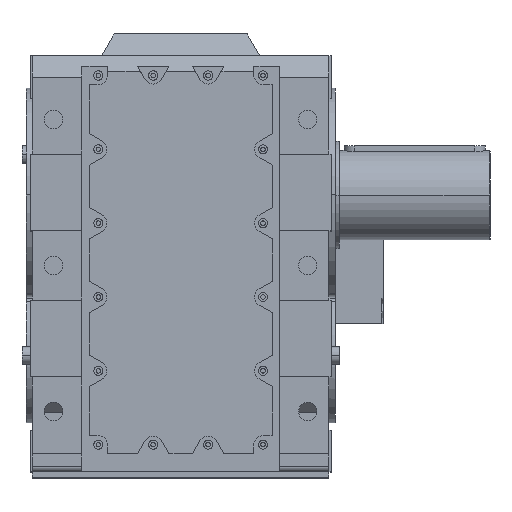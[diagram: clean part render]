
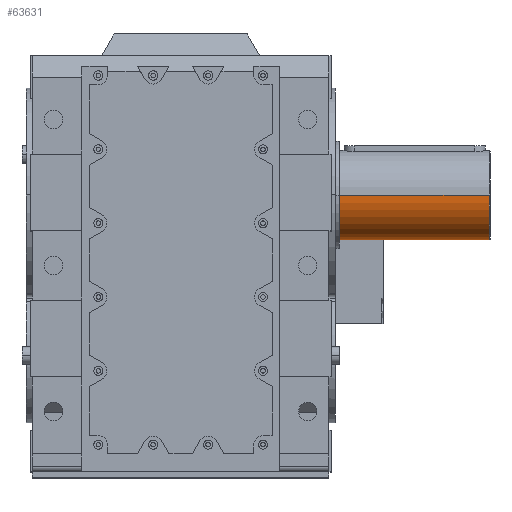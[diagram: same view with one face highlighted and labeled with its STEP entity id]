
A CAD part, top view. The second image highlights one B-rep face of the part: STEP entity #63631.
In plain terms, the highlighted cylindrical face has radius 95 mm (diameter 190 mm), a partial arc.
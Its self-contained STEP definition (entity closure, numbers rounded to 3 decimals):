
#62641 = PLANE('',#62642);
#62642 = AXIS2_PLACEMENT_3D('',#62643,#62644,#62645);
#62643 = CARTESIAN_POINT('',(337.,95.,0.));
#62644 = DIRECTION('',(-1.,0.,0.));
#62645 = DIRECTION('',(0.,0.,1.));
#62727 = VERTEX_POINT('',#62728);
#62728 = CARTESIAN_POINT('',(337.,0.,95.));
#62729 = VERTEX_POINT('',#62730);
#62730 = CARTESIAN_POINT('',(337.,0.,-95.));
#62745 = CYLINDRICAL_SURFACE('',#62746,95.);
#62746 = AXIS2_PLACEMENT_3D('',#62747,#62748,#62749);
#62747 = CARTESIAN_POINT('',(0.,0.,0.));
#62748 = DIRECTION('',(-1.,0.,0.));
#62749 = DIRECTION('',(0.,0.,1.));
#62756 = EDGE_CURVE('',#62729,#62727,#62757,.T.);
#62757 = SURFACE_CURVE('',#62758,(#62763,#62770),.PCURVE_S1.);
#62758 = CIRCLE('',#62759,95.);
#62759 = AXIS2_PLACEMENT_3D('',#62760,#62761,#62762);
#62760 = CARTESIAN_POINT('',(337.,0.,0.));
#62761 = DIRECTION('',(-1.,0.,0.));
#62762 = DIRECTION('',(0.,0.,1.));
#62763 = PCURVE('',#62641,#62764);
#62764 = DEFINITIONAL_REPRESENTATION('',(#62765),#62769);
#62765 = CIRCLE('',#62766,95.);
#62766 = AXIS2_PLACEMENT_2D('',#62767,#62768);
#62767 = CARTESIAN_POINT('',(0.,-95.));
#62768 = DIRECTION('',(1.,0.));
#62769 = ( GEOMETRIC_REPRESENTATION_CONTEXT(2) 
PARAMETRIC_REPRESENTATION_CONTEXT() REPRESENTATION_CONTEXT('2D SPACE',''
  ) );
#62770 = PCURVE('',#62771,#62776);
#62771 = CYLINDRICAL_SURFACE('',#62772,95.);
#62772 = AXIS2_PLACEMENT_3D('',#62773,#62774,#62775);
#62773 = CARTESIAN_POINT('',(0.,0.,0.));
#62774 = DIRECTION('',(-1.,0.,0.));
#62775 = DIRECTION('',(0.,0.,1.));
#62776 = DEFINITIONAL_REPRESENTATION('',(#62777),#62780);
#62777 = B_SPLINE_CURVE_WITH_KNOTS('',1,(#62778,#62779),.UNSPECIFIED.,
  .F.,.F.,(2,2),(3.142,6.283),.PIECEWISE_BEZIER_KNOTS.);
#62778 = CARTESIAN_POINT('',(3.142,-337.));
#62779 = CARTESIAN_POINT('',(6.283,-337.));
#62780 = ( GEOMETRIC_REPRESENTATION_CONTEXT(2) 
PARAMETRIC_REPRESENTATION_CONTEXT() REPRESENTATION_CONTEXT('2D SPACE',''
  ) );
#63542 = VERTEX_POINT('',#63543);
#63543 = CARTESIAN_POINT('',(655.5,0.,95.));
#63544 = VERTEX_POINT('',#63545);
#63545 = CARTESIAN_POINT('',(655.5,0.,-95.));
#63593 = EDGE_CURVE('',#63544,#62729,#63594,.T.);
#63594 = SURFACE_CURVE('',#63595,(#63599,#63605),.PCURVE_S1.);
#63595 = LINE('',#63596,#63597);
#63596 = CARTESIAN_POINT('',(0.,0.,-95.));
#63597 = VECTOR('',#63598,1.);
#63598 = DIRECTION('',(-1.,0.,0.));
#63599 = PCURVE('',#62745,#63600);
#63600 = DEFINITIONAL_REPRESENTATION('',(#63601),#63604);
#63601 = B_SPLINE_CURVE_WITH_KNOTS('',1,(#63602,#63603),.UNSPECIFIED.,
  .F.,.F.,(2,2),(-655.5,-337.),.PIECEWISE_BEZIER_KNOTS.);
#63602 = CARTESIAN_POINT('',(3.142,-655.5));
#63603 = CARTESIAN_POINT('',(3.142,-337.));
#63604 = ( GEOMETRIC_REPRESENTATION_CONTEXT(2) 
PARAMETRIC_REPRESENTATION_CONTEXT() REPRESENTATION_CONTEXT('2D SPACE',''
  ) );
#63605 = PCURVE('',#62771,#63606);
#63606 = DEFINITIONAL_REPRESENTATION('',(#63607),#63610);
#63607 = B_SPLINE_CURVE_WITH_KNOTS('',1,(#63608,#63609),.UNSPECIFIED.,
  .F.,.F.,(2,2),(-655.5,-337.),.PIECEWISE_BEZIER_KNOTS.);
#63608 = CARTESIAN_POINT('',(3.142,-655.5));
#63609 = CARTESIAN_POINT('',(3.142,-337.));
#63610 = ( GEOMETRIC_REPRESENTATION_CONTEXT(2) 
PARAMETRIC_REPRESENTATION_CONTEXT() REPRESENTATION_CONTEXT('2D SPACE',''
  ) );
#63613 = EDGE_CURVE('',#63542,#62727,#63614,.T.);
#63614 = SURFACE_CURVE('',#63615,(#63619,#63625),.PCURVE_S1.);
#63615 = LINE('',#63616,#63617);
#63616 = CARTESIAN_POINT('',(0.,0.,95.));
#63617 = VECTOR('',#63618,1.);
#63618 = DIRECTION('',(-1.,0.,0.));
#63619 = PCURVE('',#62745,#63620);
#63620 = DEFINITIONAL_REPRESENTATION('',(#63621),#63624);
#63621 = B_SPLINE_CURVE_WITH_KNOTS('',1,(#63622,#63623),.UNSPECIFIED.,
  .F.,.F.,(2,2),(-655.5,-337.),.PIECEWISE_BEZIER_KNOTS.);
#63622 = CARTESIAN_POINT('',(0.,-655.5));
#63623 = CARTESIAN_POINT('',(0.,-337.));
#63624 = ( GEOMETRIC_REPRESENTATION_CONTEXT(2) 
PARAMETRIC_REPRESENTATION_CONTEXT() REPRESENTATION_CONTEXT('2D SPACE',''
  ) );
#63625 = PCURVE('',#62771,#63626);
#63626 = DEFINITIONAL_REPRESENTATION('',(#63627),#63630);
#63627 = B_SPLINE_CURVE_WITH_KNOTS('',1,(#63628,#63629),.UNSPECIFIED.,
  .F.,.F.,(2,2),(-655.5,-337.),.PIECEWISE_BEZIER_KNOTS.);
#63628 = CARTESIAN_POINT('',(6.283,-655.5));
#63629 = CARTESIAN_POINT('',(6.283,-337.));
#63630 = ( GEOMETRIC_REPRESENTATION_CONTEXT(2) 
PARAMETRIC_REPRESENTATION_CONTEXT() REPRESENTATION_CONTEXT('2D SPACE',''
  ) );
#63631 = ADVANCED_FACE('',(#63632),#62771,.T.);
#63632 = FACE_BOUND('',#63633,.T.);
#63633 = EDGE_LOOP('',(#63634,#63635,#63683,#63684));
#63634 = ORIENTED_EDGE('',*,*,#63593,.F.);
#63635 = ORIENTED_EDGE('',*,*,#63636,.T.);
#63636 = EDGE_CURVE('',#63544,#63542,#63637,.T.);
#63637 = SURFACE_CURVE('',#63638,(#63643,#63649),.PCURVE_S1.);
#63638 = CIRCLE('',#63639,95.);
#63639 = AXIS2_PLACEMENT_3D('',#63640,#63641,#63642);
#63640 = CARTESIAN_POINT('',(655.5,0.,0.));
#63641 = DIRECTION('',(-1.,0.,0.));
#63642 = DIRECTION('',(0.,0.,1.));
#63643 = PCURVE('',#62771,#63644);
#63644 = DEFINITIONAL_REPRESENTATION('',(#63645),#63648);
#63645 = B_SPLINE_CURVE_WITH_KNOTS('',1,(#63646,#63647),.UNSPECIFIED.,
  .F.,.F.,(2,2),(3.142,6.283),.PIECEWISE_BEZIER_KNOTS.);
#63646 = CARTESIAN_POINT('',(3.142,-655.5));
#63647 = CARTESIAN_POINT('',(6.283,-655.5));
#63648 = ( GEOMETRIC_REPRESENTATION_CONTEXT(2) 
PARAMETRIC_REPRESENTATION_CONTEXT() REPRESENTATION_CONTEXT('2D SPACE',''
  ) );
#63649 = PCURVE('',#63650,#63655);
#63650 = CONICAL_SURFACE('',#63651,93.5,0.785);
#63651 = AXIS2_PLACEMENT_3D('',#63652,#63653,#63654);
#63652 = CARTESIAN_POINT('',(657.,0.,0.));
#63653 = DIRECTION('',(-1.,0.,0.));
#63654 = DIRECTION('',(0.,0.,1.));
#63655 = DEFINITIONAL_REPRESENTATION('',(#63656),#63682);
#63656 = B_SPLINE_CURVE_WITH_KNOTS('',3,(#63657,#63658,#63659,#63660,
    #63661,#63662,#63663,#63664,#63665,#63666,#63667,#63668,#63669,
    #63670,#63671,#63672,#63673,#63674,#63675,#63676,#63677,#63678,
    #63679,#63680,#63681),.UNSPECIFIED.,.F.,.F.,(4,1,1,1,1,1,1,1,1,1,1,1
    ,1,1,1,1,1,1,1,1,1,1,4),(3.142,3.284,3.427
    ,3.57,3.713,3.856,3.998,
    4.141,4.284,4.427,4.57,
    4.712,4.855,4.998,5.141,
    5.284,5.426,5.569,5.712,
    5.855,5.998,6.14,6.283),
  .QUASI_UNIFORM_KNOTS.);
#63657 = CARTESIAN_POINT('',(3.142,1.5));
#63658 = CARTESIAN_POINT('',(3.189,1.5));
#63659 = CARTESIAN_POINT('',(3.284,1.5));
#63660 = CARTESIAN_POINT('',(3.427,1.5));
#63661 = CARTESIAN_POINT('',(3.57,1.5));
#63662 = CARTESIAN_POINT('',(3.713,1.5));
#63663 = CARTESIAN_POINT('',(3.856,1.5));
#63664 = CARTESIAN_POINT('',(3.998,1.5));
#63665 = CARTESIAN_POINT('',(4.141,1.5));
#63666 = CARTESIAN_POINT('',(4.284,1.5));
#63667 = CARTESIAN_POINT('',(4.427,1.5));
#63668 = CARTESIAN_POINT('',(4.57,1.5));
#63669 = CARTESIAN_POINT('',(4.712,1.5));
#63670 = CARTESIAN_POINT('',(4.855,1.5));
#63671 = CARTESIAN_POINT('',(4.998,1.5));
#63672 = CARTESIAN_POINT('',(5.141,1.5));
#63673 = CARTESIAN_POINT('',(5.284,1.5));
#63674 = CARTESIAN_POINT('',(5.426,1.5));
#63675 = CARTESIAN_POINT('',(5.569,1.5));
#63676 = CARTESIAN_POINT('',(5.712,1.5));
#63677 = CARTESIAN_POINT('',(5.855,1.5));
#63678 = CARTESIAN_POINT('',(5.998,1.5));
#63679 = CARTESIAN_POINT('',(6.14,1.5));
#63680 = CARTESIAN_POINT('',(6.236,1.5));
#63681 = CARTESIAN_POINT('',(6.283,1.5));
#63682 = ( GEOMETRIC_REPRESENTATION_CONTEXT(2) 
PARAMETRIC_REPRESENTATION_CONTEXT() REPRESENTATION_CONTEXT('2D SPACE',''
  ) );
#63683 = ORIENTED_EDGE('',*,*,#63613,.T.);
#63684 = ORIENTED_EDGE('',*,*,#62756,.F.);
